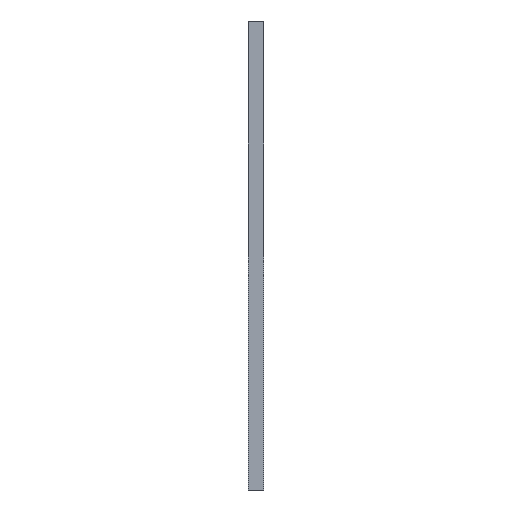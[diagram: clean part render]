
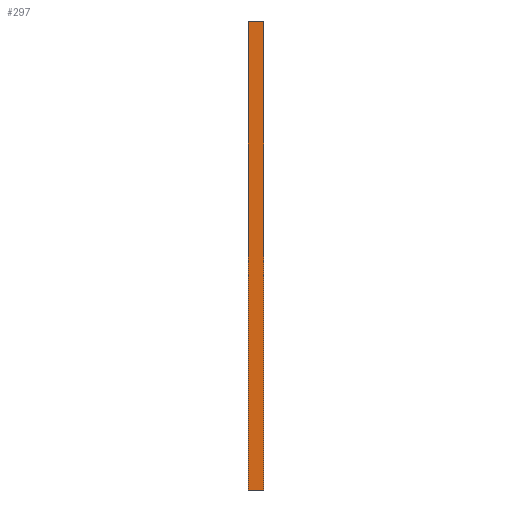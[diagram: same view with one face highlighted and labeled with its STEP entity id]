
A CAD part, left-side view. The second image highlights one B-rep face of the part: STEP entity #297.
In plain terms, the highlighted planar face has unit normal (-1, 0, 0).
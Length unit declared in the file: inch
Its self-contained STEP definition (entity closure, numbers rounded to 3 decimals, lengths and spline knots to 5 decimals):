
#10 = ORIENTED_EDGE ( 'NONE', *, *, #383, .T. ) ;
#51 = LINE ( 'NONE', #110, #599 ) ;
#69 = LINE ( 'NONE', #465, #632 ) ;
#110 = CARTESIAN_POINT ( 'NONE',  ( 0., 0.063, 0. ) ) ;
#172 = EDGE_CURVE ( 'NONE', #647, #216, #51, .T. ) ;
#183 = ORIENTED_EDGE ( 'NONE', *, *, #172, .F. ) ;
#210 = CARTESIAN_POINT ( 'NONE',  ( 0., 0.063, 0. ) ) ;
#211 = CARTESIAN_POINT ( 'NONE',  ( 0., 0.063, 0. ) ) ;
#216 = VERTEX_POINT ( 'NONE', #537 ) ;
#232 = PLANE ( 'NONE',  #645 ) ;
#238 = DIRECTION ( 'NONE',  ( 0., -1., 0. ) ) ;
#248 = VECTOR ( 'NONE', #238, 39.37008 ) ;
#261 = DIRECTION ( 'NONE',  ( 0., 0., -1. ) ) ;
#277 = EDGE_CURVE ( 'NONE', #216, #565, #540, .T. ) ;
#284 = CARTESIAN_POINT ( 'NONE',  ( 0., 0.063, -1.875 ) ) ;
#297 = ADVANCED_FACE ( 'NONE', ( #483 ), #232, .F. ) ;
#340 = ORIENTED_EDGE ( 'NONE', *, *, #277, .F. ) ;
#382 = LINE ( 'NONE', #503, #248 ) ;
#383 = EDGE_CURVE ( 'NONE', #619, #565, #69, .T. ) ;
#407 = ORIENTED_EDGE ( 'NONE', *, *, #702, .T. ) ;
#422 = DIRECTION ( 'NONE',  ( 0., 0., 1. ) ) ;
#465 = CARTESIAN_POINT ( 'NONE',  ( 0., 0., 0. ) ) ;
#469 = CARTESIAN_POINT ( 'NONE',  ( 0., 0., -1.875 ) ) ;
#483 = FACE_OUTER_BOUND ( 'NONE', #606, .T. ) ;
#499 = VECTOR ( 'NONE', #500, 39.37008 ) ;
#500 = DIRECTION ( 'NONE',  ( 0., -1., 0. ) ) ;
#503 = CARTESIAN_POINT ( 'NONE',  ( 0., 0.063, -1.875 ) ) ;
#519 = DIRECTION ( 'NONE',  ( 0., 0., 1. ) ) ;
#520 = CARTESIAN_POINT ( 'NONE',  ( 0., 0., 0. ) ) ;
#537 = CARTESIAN_POINT ( 'NONE',  ( 0., 0.063, 0. ) ) ;
#540 = LINE ( 'NONE', #211, #499 ) ;
#565 = VERTEX_POINT ( 'NONE', #520 ) ;
#577 = DIRECTION ( 'NONE',  ( 1., 0., 0. ) ) ;
#599 = VECTOR ( 'NONE', #422, 39.37008 ) ;
#606 = EDGE_LOOP ( 'NONE', ( #10, #340, #183, #407 ) ) ;
#619 = VERTEX_POINT ( 'NONE', #469 ) ;
#632 = VECTOR ( 'NONE', #519, 39.37008 ) ;
#645 = AXIS2_PLACEMENT_3D ( 'NONE', #210, #577, #261 ) ;
#647 = VERTEX_POINT ( 'NONE', #284 ) ;
#702 = EDGE_CURVE ( 'NONE', #647, #619, #382, .T. ) ;
